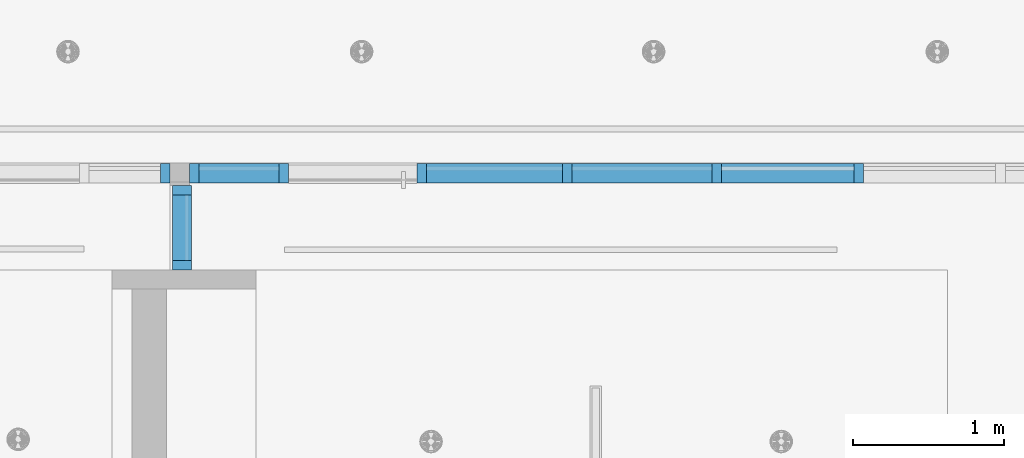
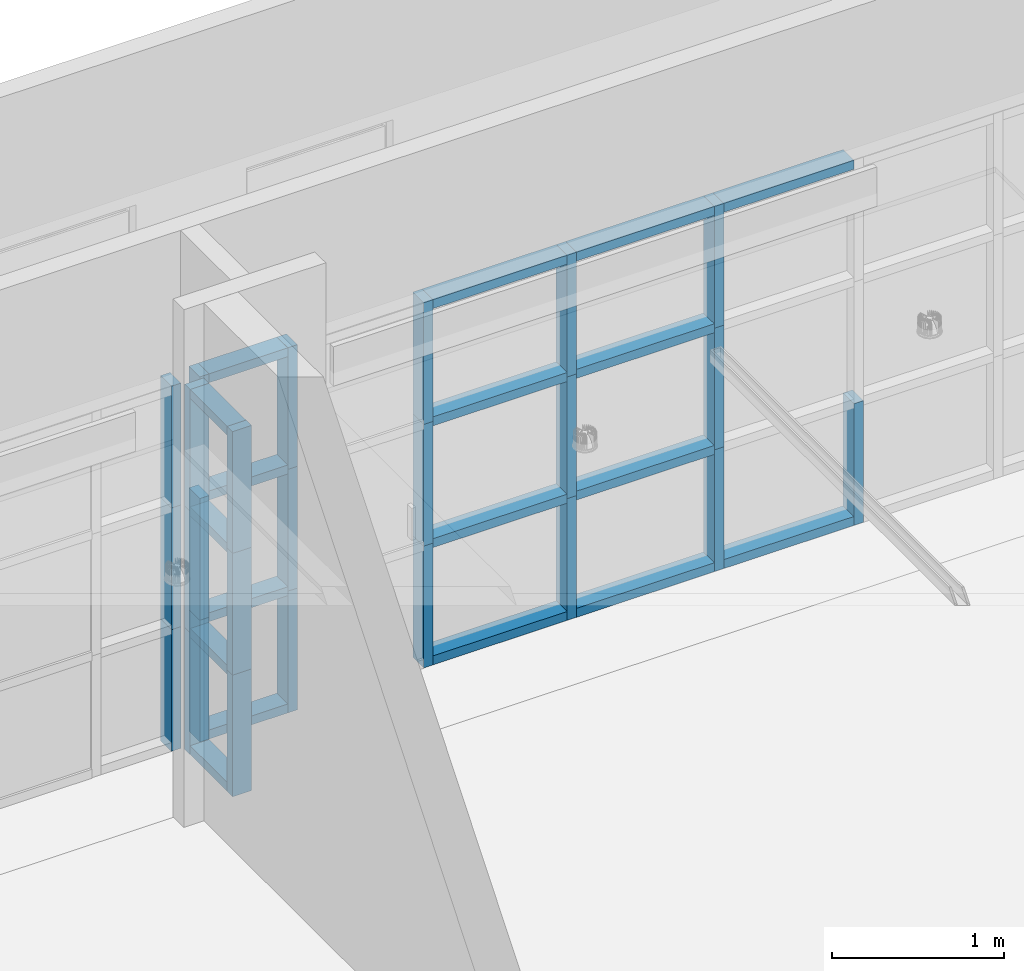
# One storey, part 8 of 108: 43 members, 3 elements without a shape of their own.
"""IFC4 building model written with IfcOpenShell, lengths in feet."""

from ifc_helpers import new_model, entity, si_unit, converted_unit, derived_unit, direction, frame, origin, origin_2d_with_axis, place, context, subcontext, project, spatial, rectangle, extrude, source, transform, mapped, material, material_profile, profile_set, profile_usage, type_object, type_shapes, element, aggregate, save


model = new_model("IFC4")

# Units and contexts
model_context = context("Model", 3, precision=0.0001, world=origin(), true_north=direction((6.12303176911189e-17, 1.0)))
body_context = subcontext(model_context, "Body", "Model", "MODEL_VIEW")
ifc_project = project(units=[converted_unit("LENGTHUNIT", "FOOT", entity("IfcRatioMeasure", 0.3048), si_unit("LENGTHUNIT", "METRE"), dimensions=[1, 0, 0, 0, 0, 0, 0]), converted_unit("AREAUNIT", "SQUARE FOOT", entity("IfcRatioMeasure", 0.09290304), si_unit("AREAUNIT", "SQUARE_METRE"), dimensions=[2, 0, 0, 0, 0, 0, 0]), converted_unit("VOLUMEUNIT", "CUBIC FOOT", entity("IfcRatioMeasure", 0.028316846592), si_unit("VOLUMEUNIT", "CUBIC_METRE"), dimensions=[3, 0, 0, 0, 0, 0, 0]), converted_unit("PLANEANGLEUNIT", "DEGREE", entity("IfcRatioMeasure", 0.0174532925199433), si_unit("PLANEANGLEUNIT", "RADIAN"), dimensions=[0, 0, 0, 0, 0, 0, 0]), si_unit("MASSUNIT", "GRAM", prefix="KILO"), derived_unit("MASSDENSITYUNIT", [(si_unit("MASSUNIT", "GRAM", prefix="KILO"), 1), (si_unit("LENGTHUNIT", "METRE"), -3)]), si_unit("TIMEUNIT", "SECOND"), si_unit("FREQUENCYUNIT", "HERTZ"), si_unit("THERMODYNAMICTEMPERATUREUNIT", "DEGREE_CELSIUS"), derived_unit("THERMALTRANSMITTANCEUNIT", [(si_unit("MASSUNIT", "GRAM", prefix="KILO"), 1), (si_unit("THERMODYNAMICTEMPERATUREUNIT", "KELVIN"), -1), (si_unit("TIMEUNIT", "SECOND"), -3)]), derived_unit("VOLUMETRICFLOWRATEUNIT", [(si_unit("LENGTHUNIT", "METRE"), 3), (si_unit("TIMEUNIT", "SECOND"), -1)]), si_unit("ELECTRICCURRENTUNIT", "AMPERE"), si_unit("ELECTRICVOLTAGEUNIT", "VOLT"), si_unit("POWERUNIT", "WATT"), si_unit("FORCEUNIT", "NEWTON"), si_unit("ILLUMINANCEUNIT", "LUX"), si_unit("LUMINOUSFLUXUNIT", "LUMEN"), si_unit("LUMINOUSINTENSITYUNIT", "CANDELA"), derived_unit("USERDEFINED", [(si_unit("MASSUNIT", "GRAM", prefix="KILO"), -1), (si_unit("LENGTHUNIT", "METRE"), -2), (si_unit("TIMEUNIT", "SECOND"), 3), (si_unit("LUMINOUSFLUXUNIT", "LUMEN"), 1)]), derived_unit("LINEARVELOCITYUNIT", [(si_unit("LENGTHUNIT", "METRE"), 1), (si_unit("TIMEUNIT", "SECOND"), -1)]), si_unit("PRESSUREUNIT", "PASCAL"), derived_unit("USERDEFINED", [(si_unit("LENGTHUNIT", "METRE"), -2), (si_unit("MASSUNIT", "GRAM", prefix="KILO"), 1), (si_unit("TIMEUNIT", "SECOND"), -2)])], contexts=[model_context])

# Site, building, storey
site_placement = place(None, origin())
site = spatial("IfcSite", under=ifc_project, at=site_placement, Name="Default", CompositionType="ELEMENT")
building_placement = place(site_placement, origin())
building = spatial("IfcBuilding", under=site, at=building_placement, CompositionType="ELEMENT")
storey_placement = place(building_placement, frame((0.0, 0.0, 168.0)))
storey = spatial("IfcBuildingStorey", under=building, at=storey_placement, Name="Level 15", CompositionType="ELEMENT", Elevation=168.0)

# Curtain wall, member
curtain_wall_type = type_object("IfcCurtainWallType", Name="Curtain Wall:Storefront 02", PredefinedType="NOTDEFINED")
curtain_wall_1_placement = place(storey_placement, frame((0.0, 0.0, -168.0)))
curtain_wall_1 = element("IfcCurtainWall", 1, at=curtain_wall_1_placement, inside=storey, type_object=curtain_wall_type, Name="Curtain Wall:Storefront 02", ObjectType="Curtain Wall:Storefront 02", PredefinedType="NOTDEFINED")
ifc_material = material(Name="Aluminum", Category="Metal")
ifc_material_profile = material_profile(ifc_material, rectangle(XDim=0.416666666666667, YDim=0.208333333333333, at=origin_2d_with_axis()), Name="2.5\" x 5\" rectangular")
ifc_profile_set = profile_set([ifc_material_profile], Name="2.5\" x 5\" rectangular")
ifc_profile_usage_1 = profile_usage(ifc_profile_set)
member_type_1 = type_object("IfcMemberType", Name="2.5\" x 5\" rectangular", PredefinedType="MEMBER", material=ifc_profile_set)
shared_shape_1 = source(origin(), body_context, "Body", "SweptSolid", [
    extrude(rectangle(XDim=0.416666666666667, YDim=0.208333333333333, at=origin_2d_with_axis()), frame((-0.104166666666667, 0.0, -2.84094160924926), z_axis=(0.0, 0.0, 1.0), x_axis=(0.0, -1.0, 0.0)), (0.0, 0.0, 1.0), 2.84094160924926),
])
type_shapes(member_type_1, [shared_shape_1])
member_1_placement = place(storey_placement, frame((13.3741025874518, 9.96064959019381, 0.0), z_axis=(0.0, 0.0, -1.0), x_axis=(-1.0, 0.0, 0.0)))
member_1 = element("IfcMember", 2, at=member_1_placement, type_object=member_type_1, material=ifc_profile_usage_1, Name="Rectangular Mullion:2.5\" x 5\" rectangular", ObjectType="Rectangular Mullion:2.5\" x 5\" rectangular", PredefinedType="MULLION", context=body_context, shape_type="MappedRepresentation", body=[
    mapped(shared_shape_1, transform((0.0, 0.0, 0.0), scale=1.0)),
])

# Curtain wall, members
curtain_wall_2_placement = place(storey_placement, frame((0.0, 0.0, -168.0)))
curtain_wall_2 = element("IfcCurtainWall", 3, at=curtain_wall_2_placement, inside=storey, type_object=curtain_wall_type, Name="Curtain Wall:Storefront 02", ObjectType="Curtain Wall:Storefront 02", PredefinedType="NOTDEFINED")
ifc_profile_usage_2 = profile_usage(ifc_profile_set)
member_2_placement = place(storey_placement, frame((13.2137039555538, 9.68998029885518, 0.0), z_axis=(0.0, 0.0, -1.0), x_axis=(0.0, 1.0, 0.0)))
member_2 = element("IfcMember", 4, at=member_2_placement, type_object=member_type_1, material=ifc_profile_usage_2, Name="Rectangular Mullion:2.5\" x 5\" rectangular", ObjectType="Rectangular Mullion:2.5\" x 5\" rectangular", PredefinedType="MULLION", context=body_context, shape_type="MappedRepresentation", body=[
    mapped(shared_shape_1, transform((0.0, 0.0, 0.0), scale=1.0)),
])
ifc_profile_usage_3 = profile_usage(ifc_profile_set)
member_type_2 = type_object("IfcMemberType", Name="2.5\" x 5\" rectangular", PredefinedType="MEMBER", material=ifc_profile_set)
shared_shape_2 = source(origin(), body_context, "Body", "SweptSolid", [
    extrude(rectangle(XDim=0.416666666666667, YDim=0.208333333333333, at=origin_2d_with_axis()), frame((-0.104166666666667, 0.0, -2.84094160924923), z_axis=(0.0, 0.0, 1.0), x_axis=(0.0, -1.0, 0.0)), (0.0, 0.0, 1.0), 2.84094160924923),
])
type_shapes(member_type_2, [shared_shape_2])
member_3_placement = place(storey_placement, frame((13.2137039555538, 7.85664696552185, 8.52282482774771), z_axis=(0.0, 0.0, 1.0), x_axis=(0.0, -1.0, 0.0)))
member_3 = element("IfcMember", 5, at=member_3_placement, type_object=member_type_2, material=ifc_profile_usage_3, Name="Rectangular Mullion:2.5\" x 5\" rectangular", ObjectType="Rectangular Mullion:2.5\" x 5\" rectangular", PredefinedType="MULLION", context=body_context, shape_type="MappedRepresentation", body=[
    mapped(shared_shape_2, transform((0.0, 0.0, 0.0), scale=1.0)),
])

# Curtain wall, member
curtain_wall_3_placement = place(storey_placement, frame((0.0, 0.0, -168.0)))
curtain_wall_3 = element("IfcCurtainWall", 6, at=curtain_wall_3_placement, inside=storey, type_object=curtain_wall_type, Name="Curtain Wall:Storefront 02", ObjectType="Curtain Wall:Storefront 02", PredefinedType="NOTDEFINED")
ifc_profile_usage_4 = profile_usage(ifc_profile_set)
member_4_placement = place(storey_placement, frame((12.9574359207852, 9.96064959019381, 8.52282482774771)))
member_4 = element("IfcMember", 7, at=member_4_placement, type_object=member_type_2, material=ifc_profile_usage_4, Name="Rectangular Mullion:2.5\" x 5\" rectangular", ObjectType="Rectangular Mullion:2.5\" x 5\" rectangular", PredefinedType="MULLION", context=body_context, shape_type="MappedRepresentation", body=[
    mapped(shared_shape_2, transform((0.0, 0.0, 0.0), scale=1.0)),
])

# Member
ifc_profile_usage_5 = profile_usage(ifc_profile_set)
member_type_3 = type_object("IfcMemberType", Name="2.5\" x 5\" rectangular", PredefinedType="MEMBER", material=ifc_profile_set)
shared_shape_3 = source(origin(), body_context, "Body", "SweptSolid", [
    extrude(rectangle(XDim=0.416666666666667, YDim=0.208333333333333, at=origin_2d_with_axis()), frame((-0.104166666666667, 0.0, -2.84094160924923), z_axis=(0.0, 0.0, 1.0), x_axis=(0.0, -1.0, 0.0)), (0.0, 0.0, 1.0), 2.84094160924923),
])
type_shapes(member_type_3, [shared_shape_3])
member_5_placement = place(storey_placement, frame((13.3741025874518, 9.96064959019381, 5.68188321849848), z_axis=(0.0, 0.0, -1.0), x_axis=(-1.0, 0.0, 0.0)))
member_5 = element("IfcMember", 8, at=member_5_placement, type_object=member_type_3, material=ifc_profile_usage_5, Name="Rectangular Mullion:2.5\" x 5\" rectangular", ObjectType="Rectangular Mullion:2.5\" x 5\" rectangular", PredefinedType="MULLION", context=body_context, shape_type="MappedRepresentation", body=[
    mapped(shared_shape_3, transform((0.0, 0.0, 0.0), scale=1.0)),
])

ifc_profile_usage_6 = profile_usage(ifc_profile_set)
member_6_placement = place(storey_placement, frame((13.2137039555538, 9.68998029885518, 5.68188321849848), z_axis=(0.0, 0.0, -1.0), x_axis=(0.0, 1.0, 0.0)))
member_6 = element("IfcMember", 9, at=member_6_placement, type_object=member_type_3, material=ifc_profile_usage_6, Name="Rectangular Mullion:2.5\" x 5\" rectangular", ObjectType="Rectangular Mullion:2.5\" x 5\" rectangular", PredefinedType="MULLION", context=body_context, shape_type="MappedRepresentation", body=[
    mapped(shared_shape_3, transform((0.0, 0.0, 0.0), scale=1.0)),
])

ifc_profile_usage_7 = profile_usage(ifc_profile_set)
member_type_4 = type_object("IfcMemberType", Name="2.5\" x 5\" rectangular", PredefinedType="MEMBER", material=ifc_profile_set)
shared_shape_4 = source(origin(), body_context, "Body", "SweptSolid", [
    extrude(rectangle(XDim=0.416666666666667, YDim=0.208333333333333, at=origin_2d_with_axis()), frame((-0.104166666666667, 0.0, -2.84094160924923), z_axis=(0.0, 0.0, 1.0), x_axis=(0.0, -1.0, 0.0)), (0.0, 0.0, 1.0), 2.84094160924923),
])
type_shapes(member_type_4, [shared_shape_4])
member_7_placement = place(storey_placement, frame((13.2137039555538, 7.85664696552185, 5.68188321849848), z_axis=(0.0, 0.0, 1.0), x_axis=(0.0, -1.0, 0.0)))
member_7 = element("IfcMember", 10, at=member_7_placement, type_object=member_type_4, material=ifc_profile_usage_7, Name="Rectangular Mullion:2.5\" x 5\" rectangular", ObjectType="Rectangular Mullion:2.5\" x 5\" rectangular", PredefinedType="MULLION", context=body_context, shape_type="MappedRepresentation", body=[
    mapped(shared_shape_4, transform((0.0, 0.0, 0.0), scale=1.0)),
])

ifc_profile_usage_8 = profile_usage(ifc_profile_set)
member_8_placement = place(storey_placement, frame((12.9574359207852, 9.96064959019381, 5.68188321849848)))
member_8 = element("IfcMember", 11, at=member_8_placement, type_object=member_type_4, material=ifc_profile_usage_8, Name="Rectangular Mullion:2.5\" x 5\" rectangular", ObjectType="Rectangular Mullion:2.5\" x 5\" rectangular", PredefinedType="MULLION", context=body_context, shape_type="MappedRepresentation", body=[
    mapped(shared_shape_4, transform((0.0, 0.0, 0.0), scale=1.0)),
])

ifc_profile_usage_9 = profile_usage(ifc_profile_set)
member_type_5 = type_object("IfcMemberType", Name="2.5\" x 5\" rectangular", PredefinedType="MEMBER", material=ifc_profile_set)
shared_shape_5 = source(origin(), body_context, "Body", "SweptSolid", [
    extrude(rectangle(XDim=0.416666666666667, YDim=0.208333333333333, at=origin_2d_with_axis()), frame((-0.104166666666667, 0.0, -2.84094160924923), z_axis=(0.0, 0.0, 1.0), x_axis=(0.0, -1.0, 0.0)), (0.0, 0.0, 1.0), 2.84094160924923),
])
type_shapes(member_type_5, [shared_shape_5])
member_9_placement = place(storey_placement, frame((13.3741025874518, 9.96064959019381, 2.84094160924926), z_axis=(0.0, 0.0, -1.0), x_axis=(-1.0, 0.0, 0.0)))
member_9 = element("IfcMember", 12, at=member_9_placement, type_object=member_type_5, material=ifc_profile_usage_9, Name="Rectangular Mullion:2.5\" x 5\" rectangular", ObjectType="Rectangular Mullion:2.5\" x 5\" rectangular", PredefinedType="MULLION", context=body_context, shape_type="MappedRepresentation", body=[
    mapped(shared_shape_5, transform((0.0, 0.0, 0.0), scale=1.0)),
])

ifc_profile_usage_10 = profile_usage(ifc_profile_set)
member_10_placement = place(storey_placement, frame((13.2137039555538, 9.68998029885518, 2.84094160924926), z_axis=(0.0, 0.0, -1.0), x_axis=(0.0, 1.0, 0.0)))
member_10 = element("IfcMember", 13, at=member_10_placement, type_object=member_type_5, material=ifc_profile_usage_10, Name="Rectangular Mullion:2.5\" x 5\" rectangular", ObjectType="Rectangular Mullion:2.5\" x 5\" rectangular", PredefinedType="MULLION", context=body_context, shape_type="MappedRepresentation", body=[
    mapped(shared_shape_5, transform((0.0, 0.0, 0.0), scale=1.0)),
])

ifc_profile_usage_11 = profile_usage(ifc_profile_set)
member_type_6 = type_object("IfcMemberType", Name="2.5\" x 5\" rectangular", PredefinedType="MEMBER", material=ifc_profile_set)
shared_shape_6 = source(origin(), body_context, "Body", "SweptSolid", [
    extrude(rectangle(XDim=0.416666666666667, YDim=0.208333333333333, at=origin_2d_with_axis()), frame((-0.104166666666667, 0.0, -2.84094160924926), z_axis=(0.0, 0.0, 1.0), x_axis=(0.0, -1.0, 0.0)), (0.0, 0.0, 1.0), 2.84094160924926),
])
type_shapes(member_type_6, [shared_shape_6])
member_11_placement = place(storey_placement, frame((13.2137039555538, 7.85664696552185, 2.84094160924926), z_axis=(0.0, 0.0, 1.0), x_axis=(0.0, -1.0, 0.0)))
member_11 = element("IfcMember", 14, at=member_11_placement, type_object=member_type_6, material=ifc_profile_usage_11, Name="Rectangular Mullion:2.5\" x 5\" rectangular", ObjectType="Rectangular Mullion:2.5\" x 5\" rectangular", PredefinedType="MULLION", context=body_context, shape_type="MappedRepresentation", body=[
    mapped(shared_shape_6, transform((0.0, 0.0, 0.0), scale=1.0)),
])

ifc_profile_usage_12 = profile_usage(ifc_profile_set)
member_12_placement = place(storey_placement, frame((12.9574359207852, 9.96064959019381, 2.84094160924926)))
member_12 = element("IfcMember", 15, at=member_12_placement, type_object=member_type_6, material=ifc_profile_usage_12, Name="Rectangular Mullion:2.5\" x 5\" rectangular", ObjectType="Rectangular Mullion:2.5\" x 5\" rectangular", PredefinedType="MULLION", context=body_context, shape_type="MappedRepresentation", body=[
    mapped(shared_shape_6, transform((0.0, 0.0, 0.0), scale=1.0)),
])

aggregate(curtain_wall_3, [member_4, member_8, member_12])

ifc_profile_usage_13 = profile_usage(ifc_profile_set)
member_type_7 = type_object("IfcMemberType", Name="2.5\" x 5\" rectangular", PredefinedType="MEMBER", material=ifc_profile_set)
shared_shape_7 = source(origin(), body_context, "Body", "SweptSolid", [
    extrude(rectangle(XDim=0.416666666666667, YDim=0.208333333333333, at=origin_2d_with_axis()), frame((-0.104166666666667, 0.0, -1.73543470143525), z_axis=(0.0, 0.0, 1.0), x_axis=(0.0, -1.0, 0.0)), (0.0, 0.0, 1.0), 1.73543470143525),
])
type_shapes(member_type_7, [shared_shape_7])
member_13_placement = place(storey_placement, frame((13.5824359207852, 9.96064959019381, 8.52282482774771), z_axis=(-1.0, 0.0, 0.0), x_axis=(0.0, 0.0, 1.0)))
member_13 = element("IfcMember", 16, at=member_13_placement, type_object=member_type_7, material=ifc_profile_usage_13, Name="Rectangular Mullion:2.5\" x 5\" rectangular", ObjectType="Rectangular Mullion:2.5\" x 5\" rectangular", PredefinedType="MULLION", context=body_context, shape_type="MappedRepresentation", body=[
    mapped(shared_shape_7, transform((0.0, 0.0, 0.0), scale=1.0)),
])

ifc_profile_usage_14 = profile_usage(ifc_profile_set)
member_type_8 = type_object("IfcMemberType", Name="2.5\" x 5\" rectangular", PredefinedType="MEMBER", material=ifc_profile_set)
shared_shape_8 = source(origin(), body_context, "Body", "SweptSolid", [
    extrude(rectangle(XDim=0.416666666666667, YDim=0.208333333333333, at=origin_2d_with_axis()), frame((-0.104166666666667, 0.0, -1.73543470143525), z_axis=(0.0, 0.0, 1.0), x_axis=(0.0, -1.0, 0.0)), (0.0, 0.0, 1.0), 1.73543470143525),
])
type_shapes(member_type_8, [shared_shape_8])
member_14_placement = place(storey_placement, frame((15.3178706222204, 9.96064959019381, 0.0), z_axis=(1.0, 0.0, 0.0), x_axis=(0.0, 0.0, -1.0)))
member_14 = element("IfcMember", 17, at=member_14_placement, type_object=member_type_8, material=ifc_profile_usage_14, Name="Rectangular Mullion:2.5\" x 5\" rectangular", ObjectType="Rectangular Mullion:2.5\" x 5\" rectangular", PredefinedType="MULLION", context=body_context, shape_type="MappedRepresentation", body=[
    mapped(shared_shape_8, transform((0.0, 0.0, 0.0), scale=1.0)),
])

ifc_profile_usage_15 = profile_usage(ifc_profile_set)
member_type_9 = type_object("IfcMemberType", Name="2.5\" x 5\" rectangular", PredefinedType="MEMBER", material=ifc_profile_set)
shared_shape_9 = source(origin(), body_context, "Body", "SweptSolid", [
    extrude(rectangle(XDim=0.416666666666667, YDim=0.208333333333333, at=origin_2d_with_axis()), frame((0.0, 0.0, -2.84094160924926), z_axis=(0.0, 0.0, 1.0), x_axis=(0.0, -1.0, 0.0)), (0.0, 0.0, 1.0), 2.84094160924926),
])
type_shapes(member_type_9, [shared_shape_9])
member_15_placement = place(storey_placement, frame((15.4220372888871, 9.96064959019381, 0.0), z_axis=(0.0, 0.0, -1.0), x_axis=(-1.0, 0.0, 0.0)))
member_15 = element("IfcMember", 18, at=member_15_placement, type_object=member_type_9, material=ifc_profile_usage_15, Name="Rectangular Mullion:2.5\" x 5\" rectangular", ObjectType="Rectangular Mullion:2.5\" x 5\" rectangular", PredefinedType="MULLION", context=body_context, shape_type="MappedRepresentation", body=[
    mapped(shared_shape_9, transform((0.0, 0.0, 0.0), scale=1.0)),
])

ifc_profile_usage_16 = profile_usage(ifc_profile_set)
member_16_placement = place(storey_placement, frame((18.4220372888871, 9.9606495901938, 0.0), z_axis=(0.0, 0.0, -1.0), x_axis=(-1.0, 0.0, 0.0)))
member_16 = element("IfcMember", 19, at=member_16_placement, type_object=member_type_9, material=ifc_profile_usage_16, Name="Rectangular Mullion:2.5\" x 5\" rectangular", ObjectType="Rectangular Mullion:2.5\" x 5\" rectangular", PredefinedType="MULLION", context=body_context, shape_type="MappedRepresentation", body=[
    mapped(shared_shape_9, transform((0.0, 0.0, 0.0), scale=1.0)),
])

ifc_profile_usage_17 = profile_usage(ifc_profile_set)
member_17_placement = place(storey_placement, frame((21.5887039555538, 9.96064959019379, 0.0), z_axis=(0.0, 0.0, -1.0), x_axis=(-1.0, 0.0, 0.0)))
member_17 = element("IfcMember", 20, at=member_17_placement, type_object=member_type_9, material=ifc_profile_usage_17, Name="Rectangular Mullion:2.5\" x 5\" rectangular", ObjectType="Rectangular Mullion:2.5\" x 5\" rectangular", PredefinedType="MULLION", context=body_context, shape_type="MappedRepresentation", body=[
    mapped(shared_shape_9, transform((0.0, 0.0, 0.0), scale=1.0)),
])

ifc_profile_usage_18 = profile_usage(ifc_profile_set)
member_18_placement = place(storey_placement, frame((24.8387039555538, 9.96064959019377, 0.0), z_axis=(0.0, 0.0, -1.0), x_axis=(-1.0, 0.0, 0.0)))
member_18 = element("IfcMember", 21, at=member_18_placement, type_object=member_type_9, material=ifc_profile_usage_18, Name="Rectangular Mullion:2.5\" x 5\" rectangular", ObjectType="Rectangular Mullion:2.5\" x 5\" rectangular", PredefinedType="MULLION", context=body_context, shape_type="MappedRepresentation", body=[
    mapped(shared_shape_9, transform((0.0, 0.0, 0.0), scale=1.0)),
])

ifc_profile_usage_19 = profile_usage(ifc_profile_set)
member_19_placement = place(storey_placement, frame((27.9220372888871, 9.96064959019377, 0.0), z_axis=(0.0, 0.0, -1.0), x_axis=(-1.0, 0.0, 0.0)))
member_19 = element("IfcMember", 22, at=member_19_placement, type_object=member_type_9, material=ifc_profile_usage_19, Name="Rectangular Mullion:2.5\" x 5\" rectangular", ObjectType="Rectangular Mullion:2.5\" x 5\" rectangular", PredefinedType="MULLION", context=body_context, shape_type="MappedRepresentation", body=[
    mapped(shared_shape_9, transform((0.0, 0.0, 0.0), scale=1.0)),
])

ifc_profile_usage_20 = profile_usage(ifc_profile_set)
member_type_10 = type_object("IfcMemberType", Name="2.5\" x 5\" rectangular", PredefinedType="MEMBER", material=ifc_profile_set)
shared_shape_10 = source(origin(), body_context, "Body", "SweptSolid", [
    extrude(rectangle(XDim=0.416666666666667, YDim=0.208333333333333, at=origin_2d_with_axis()), frame((-0.104166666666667, 0.0, -2.95833333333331), z_axis=(0.0, 0.0, 1.0), x_axis=(0.0, -1.0, 0.0)), (0.0, 0.0, 1.0), 2.95833333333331),
])
type_shapes(member_type_10, [shared_shape_10])
member_20_placement = place(storey_placement, frame((18.5262039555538, 9.9606495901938, 8.52282482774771), z_axis=(-1.0, 0.0, 0.0), x_axis=(0.0, 0.0, 1.0)))
member_20 = element("IfcMember", 23, at=member_20_placement, type_object=member_type_10, material=ifc_profile_usage_20, Name="Rectangular Mullion:2.5\" x 5\" rectangular", ObjectType="Rectangular Mullion:2.5\" x 5\" rectangular", PredefinedType="MULLION", context=body_context, shape_type="MappedRepresentation", body=[
    mapped(shared_shape_10, transform((0.0, 0.0, 0.0), scale=1.0)),
])

ifc_profile_usage_21 = profile_usage(ifc_profile_set)
member_type_11 = type_object("IfcMemberType", Name="2.5\" x 5\" rectangular", PredefinedType="MEMBER", material=ifc_profile_set)
shared_shape_11 = source(origin(), body_context, "Body", "SweptSolid", [
    extrude(rectangle(XDim=0.416666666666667, YDim=0.208333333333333, at=origin_2d_with_axis()), frame((-0.104166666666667, 0.0, -3.04166666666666), z_axis=(0.0, 0.0, 1.0), x_axis=(0.0, -1.0, 0.0)), (0.0, 0.0, 1.0), 3.04166666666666),
])
type_shapes(member_type_11, [shared_shape_11])
member_21_placement = place(storey_placement, frame((21.6928706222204, 9.96064959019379, 8.52282482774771), z_axis=(-1.0, 0.0, 0.0), x_axis=(0.0, 0.0, 1.0)))
member_21 = element("IfcMember", 24, at=member_21_placement, type_object=member_type_11, material=ifc_profile_usage_21, Name="Rectangular Mullion:2.5\" x 5\" rectangular", ObjectType="Rectangular Mullion:2.5\" x 5\" rectangular", PredefinedType="MULLION", context=body_context, shape_type="MappedRepresentation", body=[
    mapped(shared_shape_11, transform((0.0, 0.0, 0.0), scale=1.0)),
])

ifc_profile_usage_22 = profile_usage(ifc_profile_set)
member_type_12 = type_object("IfcMemberType", Name="2.5\" x 5\" rectangular", PredefinedType="MEMBER", material=ifc_profile_set)
shared_shape_12 = source(origin(), body_context, "Body", "SweptSolid", [
    extrude(rectangle(XDim=0.416666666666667, YDim=0.208333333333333, at=origin_2d_with_axis()), frame((-0.104166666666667, 0.0, -2.95833333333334), z_axis=(0.0, 0.0, 1.0), x_axis=(0.0, -1.0, 0.0)), (0.0, 0.0, 1.0), 2.95833333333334),
])
type_shapes(member_type_12, [shared_shape_12])
member_22_placement = place(storey_placement, frame((21.4845372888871, 9.96064959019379, 0.0), z_axis=(1.0, 0.0, 0.0), x_axis=(0.0, 0.0, -1.0)))
member_22 = element("IfcMember", 25, at=member_22_placement, type_object=member_type_12, material=ifc_profile_usage_22, Name="Rectangular Mullion:2.5\" x 5\" rectangular", ObjectType="Rectangular Mullion:2.5\" x 5\" rectangular", PredefinedType="MULLION", context=body_context, shape_type="MappedRepresentation", body=[
    mapped(shared_shape_12, transform((0.0, 0.0, 0.0), scale=1.0)),
])

ifc_profile_usage_23 = profile_usage(ifc_profile_set)
member_type_13 = type_object("IfcMemberType", Name="2.5\" x 5\" rectangular", PredefinedType="MEMBER", material=ifc_profile_set)
shared_shape_13 = source(origin(), body_context, "Body", "SweptSolid", [
    extrude(rectangle(XDim=0.416666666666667, YDim=0.208333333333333, at=origin_2d_with_axis()), frame((-0.104166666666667, 0.0, -2.875), z_axis=(0.0, 0.0, 1.0), x_axis=(0.0, -1.0, 0.0)), (0.0, 0.0, 1.0), 2.875),
])
type_shapes(member_type_13, [shared_shape_13])
member_23_placement = place(storey_placement, frame((24.9428706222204, 9.96064959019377, 8.52282482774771), z_axis=(-1.0, 0.0, 0.0), x_axis=(0.0, 0.0, 1.0)))
member_23 = element("IfcMember", 26, at=member_23_placement, type_object=member_type_13, material=ifc_profile_usage_23, Name="Rectangular Mullion:2.5\" x 5\" rectangular", ObjectType="Rectangular Mullion:2.5\" x 5\" rectangular", PredefinedType="MULLION", context=body_context, shape_type="MappedRepresentation", body=[
    mapped(shared_shape_13, transform((0.0, 0.0, 0.0), scale=1.0)),
])

ifc_profile_usage_24 = profile_usage(ifc_profile_set)
member_type_14 = type_object("IfcMemberType", Name="2.5\" x 5\" rectangular", PredefinedType="MEMBER", material=ifc_profile_set)
shared_shape_14 = source(origin(), body_context, "Body", "SweptSolid", [
    extrude(rectangle(XDim=0.416666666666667, YDim=0.208333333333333, at=origin_2d_with_axis()), frame((-0.104166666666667, 0.0, -3.04166666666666), z_axis=(0.0, 0.0, 1.0), x_axis=(0.0, -1.0, 0.0)), (0.0, 0.0, 1.0), 3.04166666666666),
])
type_shapes(member_type_14, [shared_shape_14])
member_24_placement = place(storey_placement, frame((24.7345372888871, 9.96064959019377, 0.0), z_axis=(1.0, 0.0, 0.0), x_axis=(0.0, 0.0, -1.0)))
member_24 = element("IfcMember", 27, at=member_24_placement, type_object=member_type_14, material=ifc_profile_usage_24, Name="Rectangular Mullion:2.5\" x 5\" rectangular", ObjectType="Rectangular Mullion:2.5\" x 5\" rectangular", PredefinedType="MULLION", context=body_context, shape_type="MappedRepresentation", body=[
    mapped(shared_shape_14, transform((0.0, 0.0, 0.0), scale=1.0)),
])

ifc_profile_usage_25 = profile_usage(ifc_profile_set)
member_type_15 = type_object("IfcMemberType", Name="2.5\" x 5\" rectangular", PredefinedType="MEMBER", material=ifc_profile_set)
shared_shape_15 = source(origin(), body_context, "Body", "SweptSolid", [
    extrude(rectangle(XDim=0.416666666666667, YDim=0.208333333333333, at=origin_2d_with_axis()), frame((-0.104166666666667, 0.0, -2.875), z_axis=(0.0, 0.0, 1.0), x_axis=(0.0, -1.0, 0.0)), (0.0, 0.0, 1.0), 2.875),
])
type_shapes(member_type_15, [shared_shape_15])
member_25_placement = place(storey_placement, frame((27.8178706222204, 9.96064959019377, 0.0), z_axis=(1.0, 0.0, 0.0), x_axis=(0.0, 0.0, -1.0)))
member_25 = element("IfcMember", 28, at=member_25_placement, type_object=member_type_15, material=ifc_profile_usage_25, Name="Rectangular Mullion:2.5\" x 5\" rectangular", ObjectType="Rectangular Mullion:2.5\" x 5\" rectangular", PredefinedType="MULLION", context=body_context, shape_type="MappedRepresentation", body=[
    mapped(shared_shape_15, transform((0.0, 0.0, 0.0), scale=1.0)),
])

ifc_profile_usage_26 = profile_usage(ifc_profile_set)
member_type_16 = type_object("IfcMemberType", Name="2.5\" x 5\" rectangular", PredefinedType="MEMBER", material=ifc_profile_set)
shared_shape_16 = source(origin(), body_context, "Body", "SweptSolid", [
    extrude(rectangle(XDim=0.416666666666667, YDim=0.208333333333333, at=origin_2d_with_axis()), frame((0.0, 0.0, -3.04166666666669), z_axis=(0.0, 0.0, 1.0), x_axis=(0.0, -1.0, 0.0)), (0.0, 0.0, 1.0), 3.04166666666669),
])
type_shapes(member_type_16, [shared_shape_16])
member_26_placement = place(storey_placement, frame((21.6928706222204, 9.96064959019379, 5.68188321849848), z_axis=(-1.0, 0.0, 0.0), x_axis=(0.0, 0.0, 1.0)))
member_26 = element("IfcMember", 29, at=member_26_placement, type_object=member_type_16, material=ifc_profile_usage_26, Name="Rectangular Mullion:2.5\" x 5\" rectangular", ObjectType="Rectangular Mullion:2.5\" x 5\" rectangular", PredefinedType="MULLION", context=body_context, shape_type="MappedRepresentation", body=[
    mapped(shared_shape_16, transform((0.0, 0.0, 0.0), scale=1.0)),
])

ifc_profile_usage_27 = profile_usage(ifc_profile_set)
member_27_placement = place(storey_placement, frame((21.6928706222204, 9.96064959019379, 2.84094160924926), z_axis=(-1.0, 0.0, 0.0), x_axis=(0.0, 0.0, 1.0)))
member_27 = element("IfcMember", 30, at=member_27_placement, type_object=member_type_16, material=ifc_profile_usage_27, Name="Rectangular Mullion:2.5\" x 5\" rectangular", ObjectType="Rectangular Mullion:2.5\" x 5\" rectangular", PredefinedType="MULLION", context=body_context, shape_type="MappedRepresentation", body=[
    mapped(shared_shape_16, transform((0.0, 0.0, 0.0), scale=1.0)),
])

ifc_profile_usage_28 = profile_usage(ifc_profile_set)
member_type_17 = type_object("IfcMemberType", Name="2.5\" x 5\" rectangular", PredefinedType="MEMBER", material=ifc_profile_set)
shared_shape_17 = source(origin(), body_context, "Body", "SweptSolid", [
    extrude(rectangle(XDim=0.416666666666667, YDim=0.208333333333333, at=origin_2d_with_axis()), frame((0.0, 0.0, -2.95833333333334), z_axis=(0.0, 0.0, 1.0), x_axis=(0.0, -1.0, 0.0)), (0.0, 0.0, 1.0), 2.95833333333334),
])
type_shapes(member_type_17, [shared_shape_17])
member_28_placement = place(storey_placement, frame((18.5262039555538, 9.9606495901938, 5.68188321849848), z_axis=(-1.0, 0.0, 0.0), x_axis=(0.0, 0.0, 1.0)))
member_28 = element("IfcMember", 31, at=member_28_placement, type_object=member_type_17, material=ifc_profile_usage_28, Name="Rectangular Mullion:2.5\" x 5\" rectangular", ObjectType="Rectangular Mullion:2.5\" x 5\" rectangular", PredefinedType="MULLION", context=body_context, shape_type="MappedRepresentation", body=[
    mapped(shared_shape_17, transform((0.0, 0.0, 0.0), scale=1.0)),
])

ifc_profile_usage_29 = profile_usage(ifc_profile_set)
member_29_placement = place(storey_placement, frame((18.5262039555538, 9.9606495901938, 2.84094160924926), z_axis=(-1.0, 0.0, 0.0), x_axis=(0.0, 0.0, 1.0)))
member_29 = element("IfcMember", 32, at=member_29_placement, type_object=member_type_17, material=ifc_profile_usage_29, Name="Rectangular Mullion:2.5\" x 5\" rectangular", ObjectType="Rectangular Mullion:2.5\" x 5\" rectangular", PredefinedType="MULLION", context=body_context, shape_type="MappedRepresentation", body=[
    mapped(shared_shape_17, transform((0.0, 0.0, 0.0), scale=1.0)),
])

ifc_profile_usage_30 = profile_usage(ifc_profile_set)
member_type_18 = type_object("IfcMemberType", Name="2.5\" x 5\" rectangular", PredefinedType="MEMBER", material=ifc_profile_set)
shared_shape_18 = source(origin(), body_context, "Body", "SweptSolid", [
    extrude(rectangle(XDim=0.416666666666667, YDim=0.208333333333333, at=origin_2d_with_axis()), frame((0.0, 0.0, -1.73543470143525), z_axis=(0.0, 0.0, 1.0), x_axis=(0.0, -1.0, 0.0)), (0.0, 0.0, 1.0), 1.73543470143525),
])
type_shapes(member_type_18, [shared_shape_18])
member_30_placement = place(storey_placement, frame((13.5824359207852, 9.96064959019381, 5.68188321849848), z_axis=(-1.0, 0.0, 0.0), x_axis=(0.0, 0.0, 1.0)))
member_30 = element("IfcMember", 33, at=member_30_placement, type_object=member_type_18, material=ifc_profile_usage_30, Name="Rectangular Mullion:2.5\" x 5\" rectangular", ObjectType="Rectangular Mullion:2.5\" x 5\" rectangular", PredefinedType="MULLION", context=body_context, shape_type="MappedRepresentation", body=[
    mapped(shared_shape_18, transform((0.0, 0.0, 0.0), scale=1.0)),
])

ifc_profile_usage_31 = profile_usage(ifc_profile_set)
member_31_placement = place(storey_placement, frame((13.5824359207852, 9.96064959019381, 2.84094160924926), z_axis=(-1.0, 0.0, 0.0), x_axis=(0.0, 0.0, 1.0)))
member_31 = element("IfcMember", 34, at=member_31_placement, type_object=member_type_18, material=ifc_profile_usage_31, Name="Rectangular Mullion:2.5\" x 5\" rectangular", ObjectType="Rectangular Mullion:2.5\" x 5\" rectangular", PredefinedType="MULLION", context=body_context, shape_type="MappedRepresentation", body=[
    mapped(shared_shape_18, transform((0.0, 0.0, 0.0), scale=1.0)),
])

ifc_profile_usage_32 = profile_usage(ifc_profile_set)
member_type_19 = type_object("IfcMemberType", Name="2.5\" x 5\" rectangular", PredefinedType="MEMBER", material=ifc_profile_set)
shared_shape_19 = source(origin(), body_context, "Body", "SweptSolid", [
    extrude(rectangle(XDim=0.416666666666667, YDim=0.208333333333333, at=origin_2d_with_axis()), frame((0.0, 0.0, -2.84094160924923), z_axis=(0.0, 0.0, 1.0), x_axis=(0.0, -1.0, 0.0)), (0.0, 0.0, 1.0), 2.84094160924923),
])
type_shapes(member_type_19, [shared_shape_19])
member_32_placement = place(storey_placement, frame((24.8387039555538, 9.96064959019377, 5.68188321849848), z_axis=(0.0, 0.0, -1.0), x_axis=(-1.0, 0.0, 0.0)))
member_32 = element("IfcMember", 35, at=member_32_placement, type_object=member_type_19, material=ifc_profile_usage_32, Name="Rectangular Mullion:2.5\" x 5\" rectangular", ObjectType="Rectangular Mullion:2.5\" x 5\" rectangular", PredefinedType="MULLION", context=body_context, shape_type="MappedRepresentation", body=[
    mapped(shared_shape_19, transform((0.0, 0.0, 0.0), scale=1.0)),
])

ifc_profile_usage_33 = profile_usage(ifc_profile_set)
member_33_placement = place(storey_placement, frame((21.5887039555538, 9.96064959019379, 5.68188321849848), z_axis=(0.0, 0.0, -1.0), x_axis=(-1.0, 0.0, 0.0)))
member_33 = element("IfcMember", 36, at=member_33_placement, type_object=member_type_19, material=ifc_profile_usage_33, Name="Rectangular Mullion:2.5\" x 5\" rectangular", ObjectType="Rectangular Mullion:2.5\" x 5\" rectangular", PredefinedType="MULLION", context=body_context, shape_type="MappedRepresentation", body=[
    mapped(shared_shape_19, transform((0.0, 0.0, 0.0), scale=1.0)),
])

ifc_profile_usage_34 = profile_usage(ifc_profile_set)
member_34_placement = place(storey_placement, frame((18.4220372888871, 9.9606495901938, 5.68188321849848), z_axis=(0.0, 0.0, -1.0), x_axis=(-1.0, 0.0, 0.0)))
member_34 = element("IfcMember", 37, at=member_34_placement, type_object=member_type_19, material=ifc_profile_usage_34, Name="Rectangular Mullion:2.5\" x 5\" rectangular", ObjectType="Rectangular Mullion:2.5\" x 5\" rectangular", PredefinedType="MULLION", context=body_context, shape_type="MappedRepresentation", body=[
    mapped(shared_shape_19, transform((0.0, 0.0, 0.0), scale=1.0)),
])

ifc_profile_usage_35 = profile_usage(ifc_profile_set)
member_35_placement = place(storey_placement, frame((15.4220372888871, 9.96064959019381, 5.68188321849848), z_axis=(0.0, 0.0, -1.0), x_axis=(-1.0, 0.0, 0.0)))
member_35 = element("IfcMember", 38, at=member_35_placement, type_object=member_type_19, material=ifc_profile_usage_35, Name="Rectangular Mullion:2.5\" x 5\" rectangular", ObjectType="Rectangular Mullion:2.5\" x 5\" rectangular", PredefinedType="MULLION", context=body_context, shape_type="MappedRepresentation", body=[
    mapped(shared_shape_19, transform((0.0, 0.0, 0.0), scale=1.0)),
])

ifc_profile_usage_36 = profile_usage(ifc_profile_set)
member_type_20 = type_object("IfcMemberType", Name="2.5\" x 5\" rectangular", PredefinedType="MEMBER", material=ifc_profile_set)
shared_shape_20 = source(origin(), body_context, "Body", "SweptSolid", [
    extrude(rectangle(XDim=0.416666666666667, YDim=0.208333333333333, at=origin_2d_with_axis()), frame((0.0, 0.0, -2.84094160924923), z_axis=(0.0, 0.0, 1.0), x_axis=(0.0, -1.0, 0.0)), (0.0, 0.0, 1.0), 2.84094160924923),
])
type_shapes(member_type_20, [shared_shape_20])
member_36_placement = place(storey_placement, frame((24.8387039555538, 9.96064959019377, 2.84094160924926), z_axis=(0.0, 0.0, -1.0), x_axis=(-1.0, 0.0, 0.0)))
member_36 = element("IfcMember", 39, at=member_36_placement, type_object=member_type_20, material=ifc_profile_usage_36, Name="Rectangular Mullion:2.5\" x 5\" rectangular", ObjectType="Rectangular Mullion:2.5\" x 5\" rectangular", PredefinedType="MULLION", context=body_context, shape_type="MappedRepresentation", body=[
    mapped(shared_shape_20, transform((0.0, 0.0, 0.0), scale=1.0)),
])

ifc_profile_usage_37 = profile_usage(ifc_profile_set)
member_37_placement = place(storey_placement, frame((21.5887039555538, 9.96064959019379, 2.84094160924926), z_axis=(0.0, 0.0, -1.0), x_axis=(-1.0, 0.0, 0.0)))
member_37 = element("IfcMember", 40, at=member_37_placement, type_object=member_type_20, material=ifc_profile_usage_37, Name="Rectangular Mullion:2.5\" x 5\" rectangular", ObjectType="Rectangular Mullion:2.5\" x 5\" rectangular", PredefinedType="MULLION", context=body_context, shape_type="MappedRepresentation", body=[
    mapped(shared_shape_20, transform((0.0, 0.0, 0.0), scale=1.0)),
])

ifc_profile_usage_38 = profile_usage(ifc_profile_set)
member_38_placement = place(storey_placement, frame((18.4220372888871, 9.9606495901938, 2.84094160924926), z_axis=(0.0, 0.0, -1.0), x_axis=(-1.0, 0.0, 0.0)))
member_38 = element("IfcMember", 41, at=member_38_placement, type_object=member_type_20, material=ifc_profile_usage_38, Name="Rectangular Mullion:2.5\" x 5\" rectangular", ObjectType="Rectangular Mullion:2.5\" x 5\" rectangular", PredefinedType="MULLION", context=body_context, shape_type="MappedRepresentation", body=[
    mapped(shared_shape_20, transform((0.0, 0.0, 0.0), scale=1.0)),
])

ifc_profile_usage_39 = profile_usage(ifc_profile_set)
member_39_placement = place(storey_placement, frame((15.4220372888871, 9.96064959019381, 2.84094160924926), z_axis=(0.0, 0.0, -1.0), x_axis=(-1.0, 0.0, 0.0)))
member_39 = element("IfcMember", 42, at=member_39_placement, type_object=member_type_20, material=ifc_profile_usage_39, Name="Rectangular Mullion:2.5\" x 5\" rectangular", ObjectType="Rectangular Mullion:2.5\" x 5\" rectangular", PredefinedType="MULLION", context=body_context, shape_type="MappedRepresentation", body=[
    mapped(shared_shape_20, transform((0.0, 0.0, 0.0), scale=1.0)),
])

aggregate(curtain_wall_1, [member_13, member_1, member_14, member_15, member_20, member_16, member_21, member_22, member_17, member_23, member_24, member_18, member_25, member_19, member_5, member_26, member_28, member_30, member_32, member_33, member_34, member_35, member_9, member_27, member_29, member_31, member_36, member_37, member_38, member_39])

ifc_profile_usage_40 = profile_usage(ifc_profile_set)
member_type_21 = type_object("IfcMemberType", Name="2.5\" x 5\" rectangular", PredefinedType="MEMBER", material=ifc_profile_set)
shared_shape_21 = source(origin(), body_context, "Body", "SweptSolid", [
    extrude(rectangle(XDim=0.416666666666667, YDim=0.208333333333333, at=origin_2d_with_axis()), frame((-0.104166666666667, 0.0, -1.41666666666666), z_axis=(0.0, 0.0, 1.0), x_axis=(0.0, -1.0, 0.0)), (0.0, 0.0, 1.0), 1.41666666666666),
])
type_shapes(member_type_21, [shared_shape_21])
member_40_placement = place(storey_placement, frame((13.2137039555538, 9.48164696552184, 8.52282482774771), z_axis=(0.0, 1.0, 0.0), x_axis=(0.0, 0.0, 1.0)))
member_40 = element("IfcMember", 43, at=member_40_placement, type_object=member_type_21, material=ifc_profile_usage_40, Name="Rectangular Mullion:2.5\" x 5\" rectangular", ObjectType="Rectangular Mullion:2.5\" x 5\" rectangular", PredefinedType="MULLION", context=body_context, shape_type="MappedRepresentation", body=[
    mapped(shared_shape_21, transform((0.0, 0.0, 0.0), scale=1.0)),
])

ifc_profile_usage_41 = profile_usage(ifc_profile_set)
member_type_22 = type_object("IfcMemberType", Name="2.5\" x 5\" rectangular", PredefinedType="MEMBER", material=ifc_profile_set)
shared_shape_22 = source(origin(), body_context, "Body", "SweptSolid", [
    extrude(rectangle(XDim=0.416666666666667, YDim=0.208333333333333, at=origin_2d_with_axis()), frame((-0.104166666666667, 0.0, -1.41666666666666), z_axis=(0.0, 0.0, 1.0), x_axis=(0.0, -1.0, 0.0)), (0.0, 0.0, 1.0), 1.41666666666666),
])
type_shapes(member_type_22, [shared_shape_22])
member_41_placement = place(storey_placement, frame((13.2137039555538, 8.06498029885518, 0.0), z_axis=(0.0, -1.0, 0.0), x_axis=(0.0, 0.0, -1.0)))
member_41 = element("IfcMember", 44, at=member_41_placement, type_object=member_type_22, material=ifc_profile_usage_41, Name="Rectangular Mullion:2.5\" x 5\" rectangular", ObjectType="Rectangular Mullion:2.5\" x 5\" rectangular", PredefinedType="MULLION", context=body_context, shape_type="MappedRepresentation", body=[
    mapped(shared_shape_22, transform((0.0, 0.0, 0.0), scale=1.0)),
])

ifc_profile_usage_42 = profile_usage(ifc_profile_set)
member_type_23 = type_object("IfcMemberType", Name="2.5\" x 5\" rectangular", PredefinedType="MEMBER", material=ifc_profile_set)
shared_shape_23 = source(origin(), body_context, "Body", "SweptSolid", [
    extrude(rectangle(XDim=0.416666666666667, YDim=0.208333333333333, at=origin_2d_with_axis()), frame((0.0, 0.0, -1.41666666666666), z_axis=(0.0, 0.0, 1.0), x_axis=(0.0, -1.0, 0.0)), (0.0, 0.0, 1.0), 1.41666666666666),
])
type_shapes(member_type_23, [shared_shape_23])
member_42_placement = place(storey_placement, frame((13.2137039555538, 9.48164696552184, 5.68188321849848), z_axis=(0.0, 1.0, 0.0), x_axis=(0.0, 0.0, 1.0)))
member_42 = element("IfcMember", 45, at=member_42_placement, type_object=member_type_23, material=ifc_profile_usage_42, Name="Rectangular Mullion:2.5\" x 5\" rectangular", ObjectType="Rectangular Mullion:2.5\" x 5\" rectangular", PredefinedType="MULLION", context=body_context, shape_type="MappedRepresentation", body=[
    mapped(shared_shape_23, transform((0.0, 0.0, 0.0), scale=1.0)),
])

ifc_profile_usage_43 = profile_usage(ifc_profile_set)
member_43_placement = place(storey_placement, frame((13.2137039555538, 9.48164696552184, 2.84094160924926), z_axis=(0.0, 1.0, 0.0), x_axis=(0.0, 0.0, 1.0)))
member_43 = element("IfcMember", 46, at=member_43_placement, type_object=member_type_23, material=ifc_profile_usage_43, Name="Rectangular Mullion:2.5\" x 5\" rectangular", ObjectType="Rectangular Mullion:2.5\" x 5\" rectangular", PredefinedType="MULLION", context=body_context, shape_type="MappedRepresentation", body=[
    mapped(shared_shape_23, transform((0.0, 0.0, 0.0), scale=1.0)),
])

aggregate(curtain_wall_2, [member_40, member_41, member_2, member_3, member_6, member_7, member_42, member_10, member_11, member_43])

save(model, "model.ifc")
